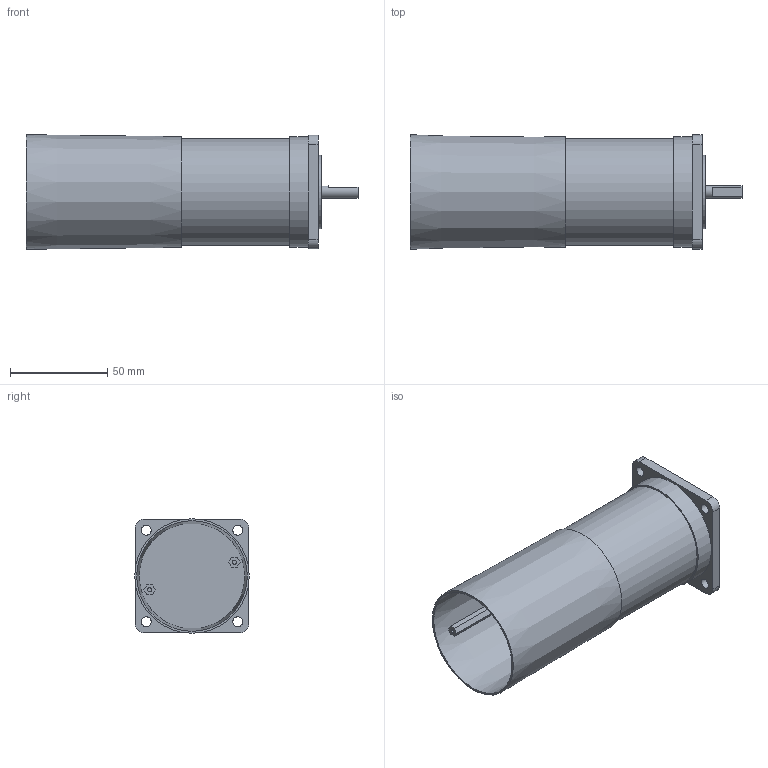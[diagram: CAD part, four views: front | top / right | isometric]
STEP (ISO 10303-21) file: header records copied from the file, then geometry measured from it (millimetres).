
FILE_DESCRIPTION( ( 'STEP AP203' ), '1' );
FILE_NAME( 'T:/CAD/JVL/2D_Mac050-141/MAC140-A1.stp', '2006-01-13T08:02:48', ( ' ' ), ( ' ' ), 'XStep 1.0', ' ', ' ' );
FILE_SCHEMA( ( 'CONFIG_CONTROL_DESIGN) ( )' ) );
Length unit declared in the file: metre
Products named in the file (1): 1
Bounding box: 171.07 x 59 x 59 mm (x, y, z)
Volume: 207582.2 mm3; surface area: 50681.6 mm2
Topology: 1 solids, 1 shells, 46 faces, 107 edges, 73 vertices
Faces by surface type: plane 30, cylinder 14, cone 2
Full cylindrical faces by diameter (mm): 2.013 x2, 5.2 x4, 6.35 x1, 38.1 x1, 55 x1, 56.7 x1
Entity records: 1270 total; most frequent: DIRECTION 216, CARTESIAN_POINT 203, ORIENTED_EDGE 178, EDGE_CURVE 89, AXIS2_PLACEMENT_3D 80, EDGE_LOOP 76, VERTEX_POINT 67, FACE_OUTER_BOUND 56
